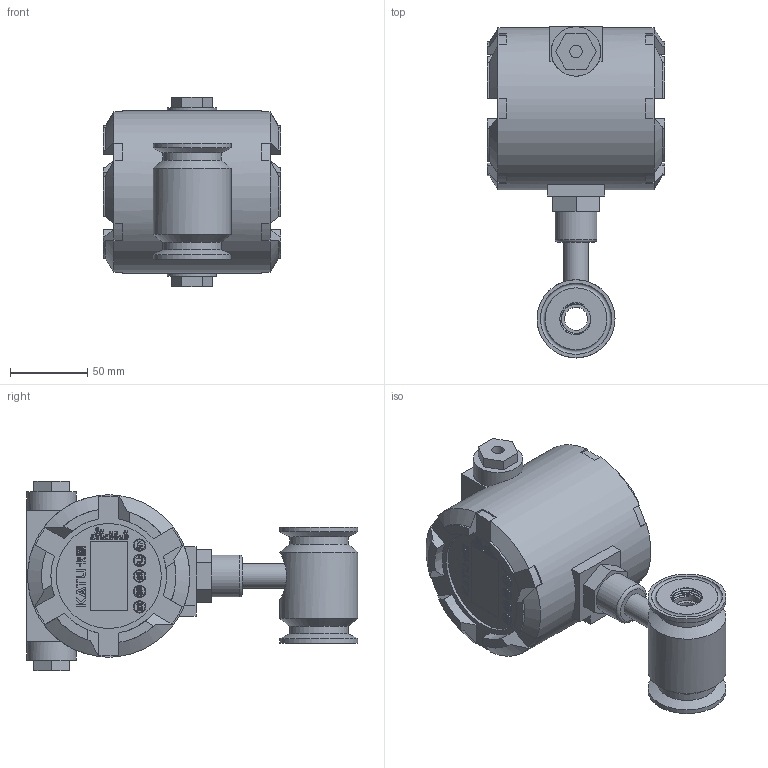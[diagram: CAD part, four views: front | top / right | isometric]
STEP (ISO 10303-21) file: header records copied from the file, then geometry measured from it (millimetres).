
FILE_DESCRIPTION( (''), '2;1');
FILE_NAME( 'QTKC_DN15_tri-clamp_Ex.step', '2024-10-14T11:55:24+08:00', (''), (''), '', '', '');
FILE_SCHEMA (('AUTOMOTIVE_DESIGN { 1 0 10303 214 3 1 1 1 }'));
Length unit declared in the file: millimetre
Products named in the file (1): QTKC DN15_tri-clamp_Ex
Bounding box: 115 x 214.75 x 122.4 mm (x, y, z)
Volume: 1059712.2 mm3; surface area: 101242.5 mm2
Topology: 4 solids, 4 shells, 1344 faces, 3678 edges, 2445 vertices
Faces by surface type: plane 726, extrusion 504, cylinder 81, cone 19, torus 8, bspline 6
Full cylindrical faces by diameter (mm): 3.3 x1, 8 x2, 15 x1, 16 x1, 17 x1, 18.5 x1, 19 x7, 20 x2, 27 x1, 32 x2, 38 x2, 50.5 x3, 68 x1, 105 x1
Entity records: 52057 total; most frequent: CARTESIAN_POINT 20374, ORIENTED_EDGE 7206, DIRECTION 4839, EDGE_CURVE 3603, VECTOR 2787, VERTEX_POINT 2413, LINE 2283, B_SPLINE_CURVE_WITH_KNOTS 1626
